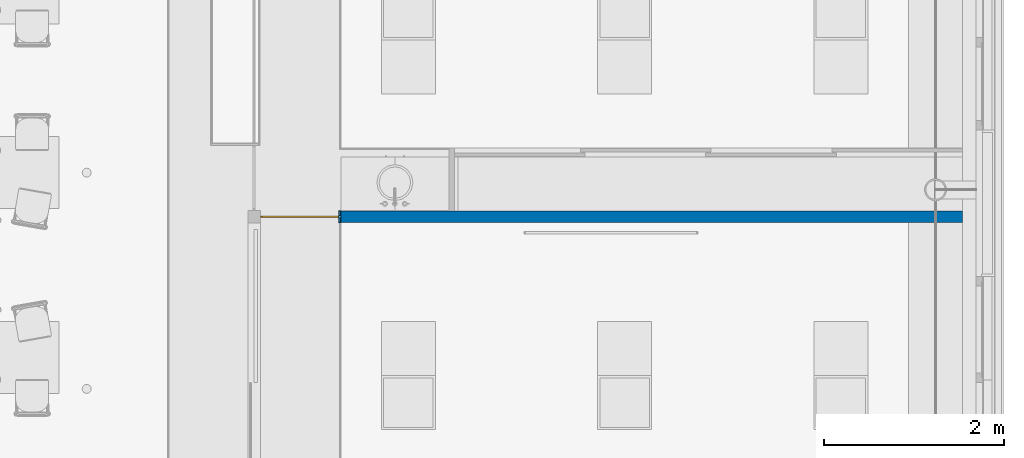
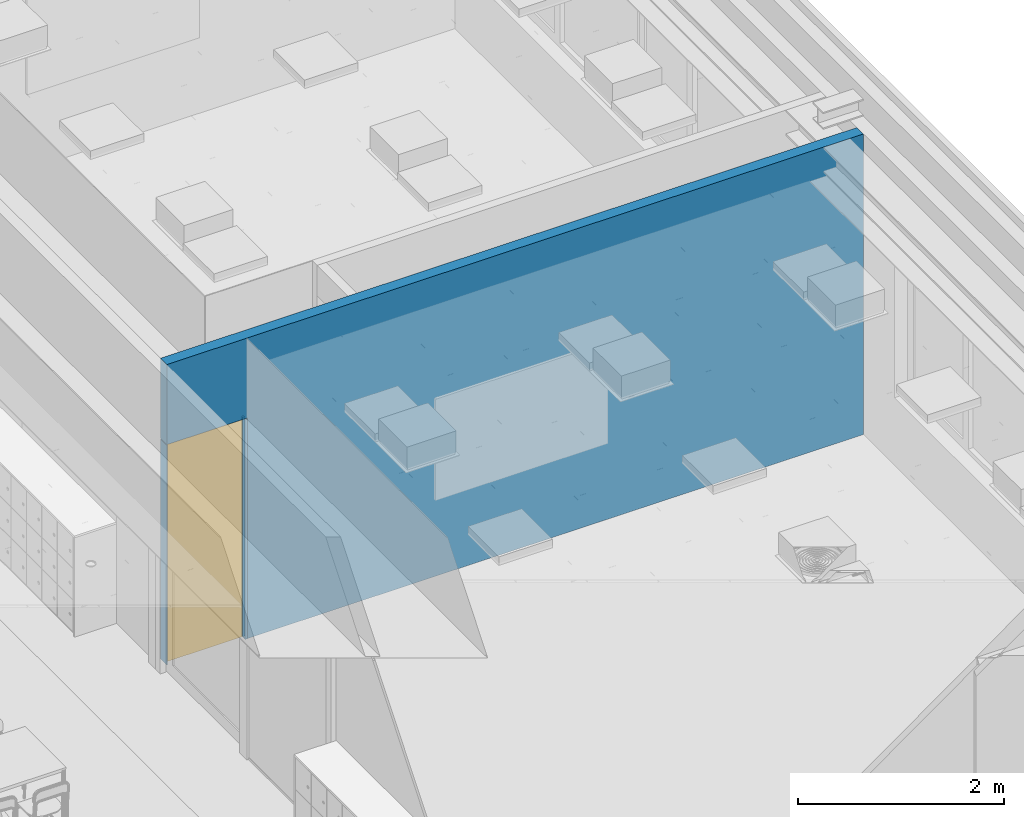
# One storey, part 30 of 260: 2 building element parts, 1 wall, 1 window, 2 openings, 1 element without a shape of its own.
"""IFC2X3 building model written with IfcOpenShell, lengths in millimetres."""

from ifc_helpers import new_model, entity, si_unit, converted_unit, derived_unit, money_unit, direction, frame, origin_with_axes, place, context, subcontext, project, spatial, open_shell, faceted_brep, surface_model, source, transform, mapped, material, type_object, type_shapes, element, fill, aggregate, save


model = new_model("IFC2X3")

# Units and contexts
model_context = context("Model", 3, precision=0.01, world=origin_with_axes(), true_north=direction((0.0, 1.0)))
plan_context = context("Plan", 3, precision=0.01, world=origin_with_axes(), true_north=direction((0.0, 1.0)))
body_context = subcontext(model_context, "Body", "Model", "MODEL_VIEW")
ifc_project = project(units=[si_unit("LENGTHUNIT", "METRE", prefix="MILLI"), si_unit("AREAUNIT", "SQUARE_METRE"), si_unit("VOLUMEUNIT", "CUBIC_METRE"), converted_unit("PLANEANGLEUNIT", "DEGREE", entity("IfcPlaneAngleMeasure", 0.0174532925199), si_unit("PLANEANGLEUNIT", "RADIAN"), dimensions=[0, 0, 0, 0, 0, 0, 0]), money_unit("EUR"), converted_unit("TIMEUNIT", "Year", entity("IfcTimeMeasure", 31556926.0), si_unit("TIMEUNIT", "SECOND"), dimensions=[0, 0, 1, 0, 0, 0, 0]), si_unit("MASSUNIT", "GRAM", prefix="KILO"), si_unit("THERMODYNAMICTEMPERATUREUNIT", "DEGREE_CELSIUS"), si_unit("LUMINOUSINTENSITYUNIT", "LUMEN"), si_unit("ENERGYUNIT", "JOULE", prefix="MEGA"), derived_unit("THERMALCONDUCTANCEUNIT", [(si_unit("POWERUNIT", "WATT"), 1), (si_unit("LENGTHUNIT", "METRE"), -1), (si_unit("THERMODYNAMICTEMPERATUREUNIT", "KELVIN"), -1)]), derived_unit("SPECIFICHEATCAPACITYUNIT", [(si_unit("ENERGYUNIT", "JOULE"), 1), (si_unit("MASSUNIT", "GRAM", prefix="KILO"), -1), (si_unit("THERMODYNAMICTEMPERATUREUNIT", "KELVIN"), -1)]), derived_unit("MASSDENSITYUNIT", [(si_unit("MASSUNIT", "GRAM", prefix="KILO"), 1), (si_unit("VOLUMEUNIT", "CUBIC_METRE"), -1)])], contexts=[model_context, plan_context])

# Site, building, storey
site_placement = place(None, origin_with_axes())
site = spatial("IfcSite", under=ifc_project, at=site_placement, Name="Site", CompositionType="ELEMENT")
building_placement = place(site_placement, origin_with_axes())
building = spatial("IfcBuilding", under=site, at=building_placement, Name="Naam gebouw", CompositionType="ELEMENT")
storey_placement = place(building_placement, frame((0.0, 0.0, 3960.0), z_axis=(0.0, 0.0, 1.0), x_axis=(1.0, 0.0, 0.0)))
storey = spatial("IfcBuildingStorey", under=building, at=storey_placement, Name="verdieping", CompositionType="ELEMENT", Elevation=3960.0)

# Wall, openings, windows, building element parts
ifc_material_1 = material(Name="ALG - LICHTE SCHEIDINGSWAND")
wall_type = type_object("IfcWallType", Name="ALG LSW 125 125", PredefinedType="NOTDEFINED")
wall_placement = place(storey_placement, frame((55875.0, 20050.0, 0.0), z_axis=(0.0, 0.0, 1.0), x_axis=(-1.0, 0.0, 0.0)))
wall = element("IfcWall", 1, at=wall_placement, inside=storey, type_object=wall_type, material=ifc_material_1, Name="22_GF 125 ECO DGS/2.75.2A", context=body_context, shape_type="Brep", body=[
    faceted_brep([(6900.0, -62.5, 0.0), (6900.0, 62.5, 0.0), (6900.0, 62.5, 2600.0), (6900.0, -62.5, 2600.0), (-3.02161211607e-05, 62.5, 0.0), (-3.02161211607e-05, -62.5, 0.0), (6900.00000001, 62.5, 2612.0), (-3.02161282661e-05, 62.5, 3560.00002846), (7800.0, 62.5, 3560.00000068), (7800.0, 62.5, 2612.0), (6900.0, -62.5, 2612.0), (7800.0, -62.5, 2612.0), (7800.0, -62.5, 3560.00000068), (-3.02161282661e-05, -62.5, 3560.00002846)], [[[0, 1, 2, 3]], [[4, 1, 0, 5]], [[6, 2, 1, 4, 7, 8, 9]], [[3, 2, 6, 10]], [[11, 12, 13, 5, 0, 3, 10]], [[4, 5, 13, 7]], [[8, 7, 13, 12]], [[11, 9, 8, 12]], [[11, 10, 6, 9]]]),
    faceted_brep([(7800.0, 62.5, 2600.0), (7793.0, 62.5, 2600.0), (7793.0, -62.5, 2600.0), (7800.0, -62.5, 2600.0), (7800.0, 62.5, 0.0), (7793.0, 62.5, 0.0), (7793.0, -62.5, 0.0), (7800.0, -62.5, 0.0)], [[[0, 1, 2, 3]], [[4, 5, 1, 0]], [[2, 1, 5, 6]], [[2, 6, 7, 3]], [[0, 3, 7, 4]], [[6, 5, 4, 7]]]),
])
opening_1_placement = place(wall_placement, frame((7346.5, 0.0, 0.0), z_axis=(0.0, 0.0, 1.0), x_axis=(1.0, 0.0, 0.0)))
opening_1 = element("IfcOpeningElement", 2, at=opening_1_placement, cuts=wall, Name="32_10.02", context=body_context, shape_type="Brep", body=[
    faceted_brep([(-446.5, 187.5, 2600.0), (-446.5, 187.5, 0.0), (-446.5, -10.0, 0.0), (-446.5, -10.0, 2600.0), (446.5, 187.5, 2600.0), (446.5, 187.5, 0.0), (446.5, -10.0, 0.0), (446.5, -10.0, 2600.0)], [[[0, 1, 2, 3]], [[0, 4, 5, 1]], [[1, 5, 6, 2]], [[3, 2, 6, 7]], [[4, 0, 3, 7]], [[5, 4, 7, 6]]]),
    faceted_brep([(-446.5, -187.5, 0.0), (-446.5, -187.5, 2600.0), (-446.5, -10.0, 2600.0), (-446.5, -10.0, 0.0), (446.5, -187.5, 0.0), (446.5, -187.5, 2600.0), (446.5, -10.0, 2600.0), (446.5, -10.0, 0.0)], [[[0, 1, 2, 3]], [[0, 4, 5, 1]], [[1, 5, 6, 2]], [[3, 2, 6, 7]], [[4, 0, 3, 7]], [[5, 4, 7, 6]]]),
])
opening_2_placement = place(wall_placement, frame((6912.5, 0.0, 0.0), z_axis=(0.0, 0.0, 1.0), x_axis=(1.0, 0.0, 0.0)))
opening_2 = element("IfcOpeningElement", 3, at=opening_2_placement, cuts=wall, Name="31_-", context=body_context, shape_type="Brep", body=[
    faceted_brep([(12.5, 187.5, 0.0), (12.5, 187.5, 2600.0), (12.5, 12.5, 2600.0), (12.5, 12.5, 0.0), (-12.5, 187.5, 0.0), (-12.5, 187.5, 2600.0), (-12.5, 12.5, 2600.0), (-12.5, 12.5, 0.0)], [[[0, 1, 2, 3]], [[0, 4, 5, 1]], [[1, 5, 6, 2]], [[3, 2, 6, 7]], [[4, 0, 3, 7]], [[5, 4, 7, 6]]]),
    faceted_brep([(12.5, -162.5, 2600.0), (12.5, -162.5, 0.0), (12.5, 12.5, 0.0), (12.5, 12.5, 2600.0), (-12.5, -162.5, 2600.0), (-12.5, -162.5, 0.0), (-12.5, 12.5, 0.0), (-12.5, 12.5, 2600.0)], [[[0, 1, 2, 3]], [[0, 4, 5, 1]], [[1, 5, 6, 2]], [[3, 2, 6, 7]], [[4, 0, 3, 7]], [[5, 4, 7, 6]]]),
])
window_style_1 = type_object("IfcWindowStyle", Name="R1 25", ConstructionType="NOTDEFINED", OperationType="SINGLE_PANEL", ParameterTakesPrecedence=False, Sizeable=False)
shared_shape_1 = source(origin_with_axes(), body_context, "Body", "SurfaceModel", [
    faceted_brep([(-426.5, -20.0, 2580.0), (-426.5, 0.0, 2580.0), (-446.5, 0.0, 2580.0), (-446.5, -20.0, 2580.0), (-426.5, -20.0, 20.0), (-426.5, 0.0, 20.0), (-446.5, 0.0, 20.0), (-446.5, -20.0, 20.0)], [[[0, 1, 2, 3]], [[4, 5, 1, 0]], [[1, 5, 6, 2]], [[3, 2, 6, 7]], [[0, 3, 7, 4]], [[7, 6, 5, 4]]]),
    faceted_brep([(426.5, -20.0, 20.0), (426.5, 0.0, 20.0), (446.5, 0.0, 20.0), (446.5, -20.0, 20.0), (426.5, -20.0, 2580.0), (426.5, 0.0, 2580.0), (446.5, 0.0, 2580.0), (446.5, -20.0, 2580.0)], [[[0, 1, 2, 3]], [[4, 5, 1, 0]], [[1, 5, 6, 2]], [[3, 2, 6, 7]], [[0, 3, 7, 4]], [[7, 6, 5, 4]]]),
    faceted_brep([(-426.5, -20.0, 20.0), (-426.5, 0.0, 20.0), (-446.5, 0.0, 20.0), (-446.5, -20.0, 20.0), (426.5, -20.0, 20.0), (426.5, 0.0, 20.0), (446.5, 0.0, 20.0), (446.5, 0.0, 0.0), (-446.5, 0.0, 0.0), (-446.5, -20.0, 0.0), (446.5, -20.0, 0.0), (446.5, -20.0, 20.0)], [[[0, 1, 2, 3]], [[4, 5, 1, 0]], [[1, 5, 6, 7, 8, 2]], [[3, 2, 8, 9]], [[0, 3, 9, 10, 11, 4]], [[11, 6, 5, 4]], [[10, 7, 6, 11]], [[9, 8, 7, 10]]]),
    faceted_brep([(426.5, -20.0, 2580.0), (426.5, 0.0, 2580.0), (446.5, 0.0, 2580.0), (446.5, -20.0, 2580.0), (-426.5, -20.0, 2580.0), (-426.5, 0.0, 2580.0), (-446.5, 0.0, 2580.0), (-446.5, 0.0, 2600.0), (446.5, 0.0, 2600.0), (446.5, -20.0, 2600.0), (-446.5, -20.0, 2600.0), (-446.5, -20.0, 2580.0)], [[[0, 1, 2, 3]], [[4, 5, 1, 0]], [[1, 5, 6, 7, 8, 2]], [[3, 2, 8, 9]], [[0, 3, 9, 10, 11, 4]], [[11, 6, 5, 4]], [[10, 7, 6, 11]], [[9, 8, 7, 10]]]),
    surface_model("IfcShellBasedSurfaceModel", [(-426.5, -20.0, 20.0), (426.5, -20.0, 20.0), (426.5, -20.0, 2580.0), (-426.5, -20.0, 2580.0)], [open_shell([[[0, 1, 2, 3]]])]),
    surface_model("IfcShellBasedSurfaceModel", [(-426.5, 0.0, 20.0), (-426.5, 0.0, 2580.0), (426.5, 0.0, 2580.0), (426.5, 0.0, 20.0)], [open_shell([[[0, 1, 2, 3]]])]),
])
type_shapes(window_style_1, [shared_shape_1])
window_1_placement = place(opening_1_placement, frame((446.5, 0.0, 0.0), z_axis=(0.0, 0.0, 1.0), x_axis=(-1.0, 0.0, 0.0)))
window_1 = element("IfcWindow", 4, at=window_1_placement, inside=storey, type_object=window_style_1, Name="32_10.02", ObjectType="WINDOW", OverallHeight=2600.0, OverallWidth=893.0, context=body_context, shape_type="MappedRepresentation", body=[
    mapped(shared_shape_1, transform((446.5, 10.0, 0.0))),
])
fill(opening_1, window_1)
window_style_2 = type_object("IfcWindowStyle", Name="32 glaslatten 125mm wand", ConstructionType="NOTDEFINED", OperationType="NOTDEFINED", ParameterTakesPrecedence=False, Sizeable=False)
window_2_placement = place(opening_2_placement, frame((-12.5, 0.0, 0.0), z_axis=(0.0, 0.0, 1.0), x_axis=(1.0, 0.0, 0.0)))
window_2 = element("IfcWindow", 5, at=window_2_placement, inside=storey, type_object=window_style_2, Name="31_-", ObjectType="WINDOW", OverallHeight=2600.0, OverallWidth=25.0)
fill(opening_2, window_2)
ifc_material_2 = material(Name="32 Hout binnenkozijn")
shared_shape_2 = source(origin_with_axes(), body_context, "Body", "Brep", [
    faceted_brep([(-12.5, -77.0, 2600.0), (-12.5, -77.0, 0.0), (12.5, -77.0, 0.0), (12.5, -77.0, 2600.0), (-12.5, -25.0, 2600.0), (-12.5, -25.0, 0.0), (12.5, -25.0, 0.0), (12.5, -25.0, 2600.0)], [[[0, 1, 2, 3]], [[4, 5, 1, 0]], [[1, 5, 6, 2]], [[3, 2, 6, 7]], [[0, 3, 7, 4]], [[7, 6, 5, 4]]]),
    faceted_brep([(-12.5, 0.0, 2600.0), (-12.5, 0.0, 0.0), (12.5, 0.0, 0.0), (12.5, 0.0, 2600.0), (-12.5, 52.0, 2600.0), (-12.5, 52.0, 0.0), (12.5, 52.0, 0.0), (12.5, 52.0, 2600.0)], [[[0, 1, 2, 3]], [[4, 5, 1, 0]], [[1, 5, 6, 2]], [[3, 2, 6, 7]], [[0, 3, 7, 4]], [[7, 6, 5, 4]]]),
])
building_element_part_1_placement = place(window_2_placement, origin_with_axes())
building_element_part_1 = element("IfcBuildingElementPart", 6, at=building_element_part_1_placement, material=ifc_material_2, Name="32 Hout binnenkozijn", context=body_context, shape_type="MappedRepresentation", body=[
    mapped(shared_shape_2, transform((12.5, 12.5, 0.0))),
])
ifc_material_3 = material(Name="Membraan - rubber")
shared_shape_3 = source(origin_with_axes(), body_context, "Body", "Brep", [
    faceted_brep([(-12.5, -25.0, 2600.0), (-12.5, -25.0, 0.0), (12.5, -25.0, 0.0), (12.5, -25.0, 2600.0), (-12.5, 0.0, 2600.0), (-12.5, 0.0, 0.0), (12.5, 0.0, 0.0), (12.5, 0.0, 2600.0)], [[[0, 1, 2, 3]], [[4, 5, 1, 0]], [[1, 5, 6, 2]], [[3, 2, 6, 7]], [[0, 3, 7, 4]], [[7, 6, 5, 4]]]),
])
building_element_part_2_placement = place(window_2_placement, origin_with_axes())
building_element_part_2 = element("IfcBuildingElementPart", 7, at=building_element_part_2_placement, material=ifc_material_3, Name="Membraan - rubber", context=body_context, shape_type="MappedRepresentation", body=[
    mapped(shared_shape_3, transform((12.5, 12.5, 0.0))),
])
aggregate(window_2, [building_element_part_1, building_element_part_2])

save(model, "model.ifc")
